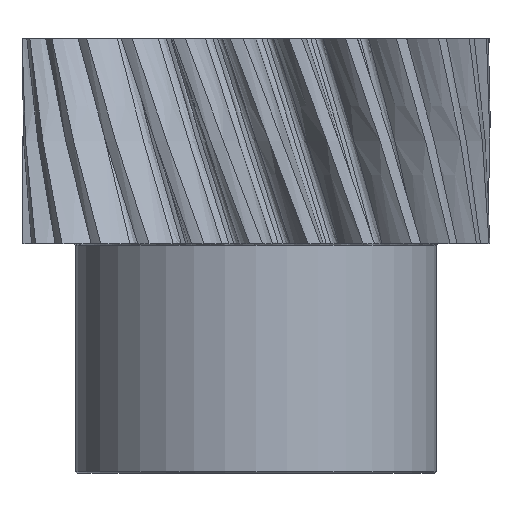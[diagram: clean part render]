
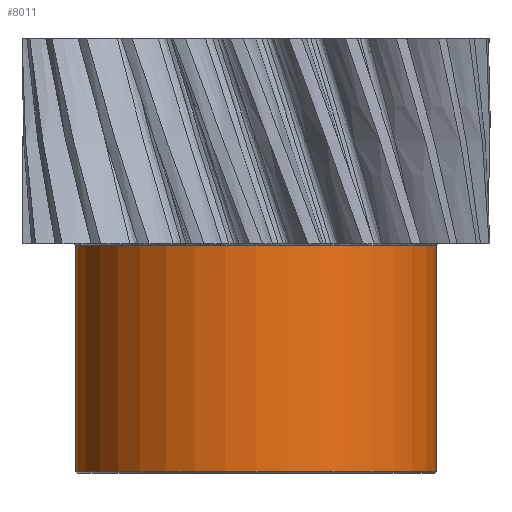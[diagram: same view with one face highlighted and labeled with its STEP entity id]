
A CAD part, front view. The second image highlights one B-rep face of the part: STEP entity #8011.
In plain terms, the highlighted cylindrical face has radius 22 mm (diameter 44 mm), a partial arc.
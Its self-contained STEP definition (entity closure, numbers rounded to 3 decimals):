
#13 = DIRECTION ( 'NONE',  ( 0., 0., 1. ) ) ;
#341 = EDGE_CURVE ( 'NONE', #14088, #11465, #16483, .T. ) ;
#976 = DIRECTION ( 'NONE',  ( 0., 0., 1. ) ) ;
#1829 = CARTESIAN_POINT ( 'NONE',  ( 22., 0., -27.8 ) ) ;
#2299 = CARTESIAN_POINT ( 'NONE',  ( 22., 0., -28. ) ) ;
#2930 = VECTOR ( 'NONE', #3868, 1000. ) ;
#3829 = CARTESIAN_POINT ( 'NONE',  ( -22., 0., -28. ) ) ;
#3868 = DIRECTION ( 'NONE',  ( 0., 0., -1. ) ) ;
#3959 = VERTEX_POINT ( 'NONE', #7667 ) ;
#4022 = ORIENTED_EDGE ( 'NONE', *, *, #6389, .T. ) ;
#4107 = AXIS2_PLACEMENT_3D ( 'NONE', #11321, #8254, #18869 ) ;
#4796 = AXIS2_PLACEMENT_3D ( 'NONE', #12402, #13, #15430 ) ;
#4889 = FACE_OUTER_BOUND ( 'NONE', #12391, .T. ) ;
#5765 = AXIS2_PLACEMENT_3D ( 'NONE', #19615, #976, #8745 ) ;
#6389 = EDGE_CURVE ( 'NONE', #3959, #16437, #12749, .T. ) ;
#6467 = LINE ( 'NONE', #3829, #17522 ) ;
#7512 = LINE ( 'NONE', #2299, #2930 ) ;
#7667 = CARTESIAN_POINT ( 'NONE',  ( -22., 0., -27.8 ) ) ;
#7870 = ORIENTED_EDGE ( 'NONE', *, *, #341, .T. ) ;
#8011 = ADVANCED_FACE ( 'NONE', ( #4889 ), #10168, .T. ) ;
#8254 = DIRECTION ( 'NONE',  ( 0., 0., -1. ) ) ;
#8670 = ORIENTED_EDGE ( 'NONE', *, *, #10099, .T. ) ;
#8745 = DIRECTION ( 'NONE',  ( -1., 0., 0. ) ) ;
#9055 = DIRECTION ( 'NONE',  ( 0., 0., -1. ) ) ;
#10099 = EDGE_CURVE ( 'NONE', #16437, #12651, #11133, .T. ) ;
#10168 = CYLINDRICAL_SURFACE ( 'NONE', #15559, 22. ) ;
#10361 = EDGE_CURVE ( 'NONE', #14088, #12651, #7512, .T. ) ;
#10720 = CARTESIAN_POINT ( 'NONE',  ( 0., 0., -28. ) ) ;
#11133 = CIRCLE ( 'NONE', #4796, 22. ) ;
#11321 = CARTESIAN_POINT ( 'NONE',  ( 0., 0., -0.2 ) ) ;
#11465 = VERTEX_POINT ( 'NONE', #15698 ) ;
#12074 = ORIENTED_EDGE ( 'NONE', *, *, #10361, .F. ) ;
#12391 = EDGE_LOOP ( 'NONE', ( #12074, #7870, #18992, #4022, #8670 ) ) ;
#12402 = CARTESIAN_POINT ( 'NONE',  ( 0., 0., -27.8 ) ) ;
#12651 = VERTEX_POINT ( 'NONE', #1829 ) ;
#12718 = CARTESIAN_POINT ( 'NONE',  ( 22., 0., -0.2 ) ) ;
#12749 = CIRCLE ( 'NONE', #5765, 22. ) ;
#12901 = DIRECTION ( 'NONE',  ( 0., 0., -1. ) ) ;
#14088 = VERTEX_POINT ( 'NONE', #12718 ) ;
#15430 = DIRECTION ( 'NONE',  ( -1., 0., 0. ) ) ;
#15559 = AXIS2_PLACEMENT_3D ( 'NONE', #10720, #9055, #19945 ) ;
#15698 = CARTESIAN_POINT ( 'NONE',  ( -22., 0., -0.2 ) ) ;
#16189 = CARTESIAN_POINT ( 'NONE',  ( 0., -22., -27.8 ) ) ;
#16437 = VERTEX_POINT ( 'NONE', #16189 ) ;
#16483 = CIRCLE ( 'NONE', #4107, 22. ) ;
#17440 = EDGE_CURVE ( 'NONE', #11465, #3959, #6467, .T. ) ;
#17522 = VECTOR ( 'NONE', #12901, 1000. ) ;
#18869 = DIRECTION ( 'NONE',  ( 1., 0., 0. ) ) ;
#18992 = ORIENTED_EDGE ( 'NONE', *, *, #17440, .T. ) ;
#19615 = CARTESIAN_POINT ( 'NONE',  ( 0., 0., -27.8 ) ) ;
#19945 = DIRECTION ( 'NONE',  ( -1., 0., 0. ) ) ;
